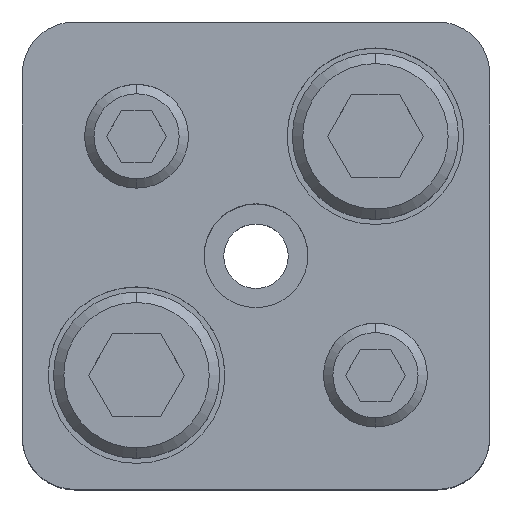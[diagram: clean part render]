
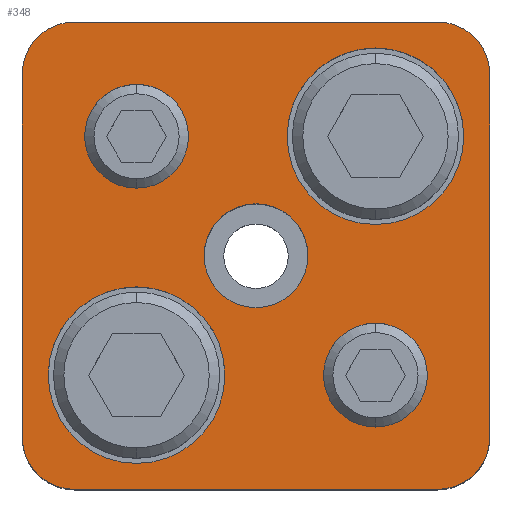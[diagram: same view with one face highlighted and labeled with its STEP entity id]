
A CAD part, top view. The second image highlights one B-rep face of the part: STEP entity #348.
In plain terms, the highlighted planar face has unit normal (0, 0, 1).
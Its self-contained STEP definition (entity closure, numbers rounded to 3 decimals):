
#173=PLANE('',#2995);
#248=FACE_BOUND('',#745,.T.);
#249=FACE_BOUND('',#746,.T.);
#250=FACE_BOUND('',#747,.T.);
#251=FACE_BOUND('',#748,.T.);
#252=FACE_BOUND('',#749,.T.);
#253=FACE_BOUND('',#750,.T.);
#348=ADVANCED_FACE('',(#248,#249,#250,#251,#252,#253),#173,.T.);
#745=EDGE_LOOP('',(#1597,#1598,#1599,#1600,#1601,#1602,#1603,#1604));
#746=EDGE_LOOP('',(#1605,#1606));
#747=EDGE_LOOP('',(#1607,#1608));
#748=EDGE_LOOP('',(#1609,#1610));
#749=EDGE_LOOP('',(#1611,#1612));
#750=EDGE_LOOP('',(#1613,#1614));
#934=LINE('',#4430,#1142);
#935=LINE('',#4434,#1143);
#936=LINE('',#4438,#1144);
#937=LINE('',#4442,#1145);
#1142=VECTOR('',#3559,1.);
#1143=VECTOR('',#3562,1.);
#1144=VECTOR('',#3565,1.);
#1145=VECTOR('',#3568,1.);
#1597=ORIENTED_EDGE('',*,*,#2454,.T.);
#1598=ORIENTED_EDGE('',*,*,#2455,.T.);
#1599=ORIENTED_EDGE('',*,*,#2456,.T.);
#1600=ORIENTED_EDGE('',*,*,#2457,.T.);
#1601=ORIENTED_EDGE('',*,*,#2458,.T.);
#1602=ORIENTED_EDGE('',*,*,#2459,.T.);
#1603=ORIENTED_EDGE('',*,*,#2460,.T.);
#1604=ORIENTED_EDGE('',*,*,#2461,.T.);
#1605=ORIENTED_EDGE('',*,*,#2462,.F.);
#1606=ORIENTED_EDGE('',*,*,#2463,.F.);
#1607=ORIENTED_EDGE('',*,*,#2464,.F.);
#1608=ORIENTED_EDGE('',*,*,#2465,.F.);
#1609=ORIENTED_EDGE('',*,*,#2440,.F.);
#1610=ORIENTED_EDGE('',*,*,#2436,.F.);
#1611=ORIENTED_EDGE('',*,*,#2434,.F.);
#1612=ORIENTED_EDGE('',*,*,#2430,.F.);
#1613=ORIENTED_EDGE('',*,*,#2466,.T.);
#1614=ORIENTED_EDGE('',*,*,#2467,.T.);
#2135=VERTEX_POINT('',#4378);
#2136=VERTEX_POINT('',#4379);
#2139=VERTEX_POINT('',#4391);
#2140=VERTEX_POINT('',#4392);
#2151=VERTEX_POINT('',#4428);
#2152=VERTEX_POINT('',#4429);
#2153=VERTEX_POINT('',#4431);
#2154=VERTEX_POINT('',#4433);
#2155=VERTEX_POINT('',#4435);
#2156=VERTEX_POINT('',#4437);
#2157=VERTEX_POINT('',#4439);
#2158=VERTEX_POINT('',#4441);
#2159=VERTEX_POINT('',#4444);
#2160=VERTEX_POINT('',#4445);
#2161=VERTEX_POINT('',#4448);
#2162=VERTEX_POINT('',#4449);
#2163=VERTEX_POINT('',#4452);
#2164=VERTEX_POINT('',#4453);
#2430=EDGE_CURVE('',#2135,#2136,#2735,.T.);
#2434=EDGE_CURVE('',#2136,#2135,#2737,.T.);
#2436=EDGE_CURVE('',#2139,#2140,#2739,.T.);
#2440=EDGE_CURVE('',#2140,#2139,#2741,.T.);
#2454=EDGE_CURVE('',#2151,#2152,#2751,.T.);
#2455=EDGE_CURVE('',#2152,#2153,#934,.T.);
#2456=EDGE_CURVE('',#2153,#2154,#2752,.T.);
#2457=EDGE_CURVE('',#2154,#2155,#935,.T.);
#2458=EDGE_CURVE('',#2155,#2156,#2753,.T.);
#2459=EDGE_CURVE('',#2156,#2157,#936,.T.);
#2460=EDGE_CURVE('',#2157,#2158,#2754,.T.);
#2461=EDGE_CURVE('',#2158,#2151,#937,.T.);
#2462=EDGE_CURVE('',#2159,#2160,#2755,.T.);
#2463=EDGE_CURVE('',#2160,#2159,#2756,.T.);
#2464=EDGE_CURVE('',#2161,#2162,#2757,.T.);
#2465=EDGE_CURVE('',#2162,#2161,#2758,.T.);
#2466=EDGE_CURVE('',#2163,#2164,#2759,.T.);
#2467=EDGE_CURVE('',#2164,#2163,#2760,.T.);
#2735=CIRCLE('',#2959,5.);
#2737=CIRCLE('',#2962,5.);
#2739=CIRCLE('',#2966,5.);
#2741=CIRCLE('',#2969,5.);
#2751=CIRCLE('',#2985,5.);
#2752=CIRCLE('',#2986,5.);
#2753=CIRCLE('',#2987,5.);
#2754=CIRCLE('',#2988,5.);
#2755=CIRCLE('',#2989,8.5);
#2756=CIRCLE('',#2990,8.5);
#2757=CIRCLE('',#2991,8.5);
#2758=CIRCLE('',#2992,8.5);
#2759=CIRCLE('',#2993,5.);
#2760=CIRCLE('',#2994,5.);
#2959=AXIS2_PLACEMENT_3D('',#4377,#3497,#3498);
#2962=AXIS2_PLACEMENT_3D('',#4386,#3505,#3506);
#2966=AXIS2_PLACEMENT_3D('',#4390,#3513,#3514);
#2969=AXIS2_PLACEMENT_3D('',#4399,#3521,#3522);
#2985=AXIS2_PLACEMENT_3D('',#4427,#3557,#3558);
#2986=AXIS2_PLACEMENT_3D('',#4432,#3560,#3561);
#2987=AXIS2_PLACEMENT_3D('',#4436,#3563,#3564);
#2988=AXIS2_PLACEMENT_3D('',#4440,#3566,#3567);
#2989=AXIS2_PLACEMENT_3D('',#4443,#3569,#3570);
#2990=AXIS2_PLACEMENT_3D('',#4446,#3571,#3572);
#2991=AXIS2_PLACEMENT_3D('',#4447,#3573,#3574);
#2992=AXIS2_PLACEMENT_3D('',#4450,#3575,#3576);
#2993=AXIS2_PLACEMENT_3D('',#4451,#3577,#3578);
#2994=AXIS2_PLACEMENT_3D('',#4454,#3579,#3580);
#2995=AXIS2_PLACEMENT_3D('',#4455,#3581,#3582);
#3497=DIRECTION('',(0.,0.,1.));
#3498=DIRECTION('',(-1.,0.,0.));
#3505=DIRECTION('',(0.,0.,1.));
#3506=DIRECTION('',(1.,0.,0.));
#3513=DIRECTION('',(0.,0.,1.));
#3514=DIRECTION('',(-1.,0.,0.));
#3521=DIRECTION('',(0.,0.,1.));
#3522=DIRECTION('',(1.,0.,0.));
#3557=DIRECTION('',(0.,0.,1.));
#3558=DIRECTION('',(-0.707,0.707,0.));
#3559=DIRECTION('',(0.,1.,0.));
#3560=DIRECTION('',(0.,0.,1.));
#3561=DIRECTION('',(-0.707,-0.707,0.));
#3562=DIRECTION('',(-1.,0.,0.));
#3563=DIRECTION('',(0.,0.,1.));
#3564=DIRECTION('',(0.707,-0.707,0.));
#3565=DIRECTION('',(0.,-1.,0.));
#3566=DIRECTION('',(0.,0.,1.));
#3567=DIRECTION('',(0.707,0.707,0.));
#3568=DIRECTION('',(1.,0.,0.));
#3569=DIRECTION('',(0.,0.,1.));
#3570=DIRECTION('',(1.,0.,0.));
#3571=DIRECTION('',(0.,0.,1.));
#3572=DIRECTION('',(-1.,0.,0.));
#3573=DIRECTION('',(0.,0.,1.));
#3574=DIRECTION('',(1.,0.,0.));
#3575=DIRECTION('',(0.,0.,1.));
#3576=DIRECTION('',(-1.,0.,0.));
#3577=DIRECTION('',(0.,0.,-1.));
#3578=DIRECTION('',(-1.,0.,0.));
#3579=DIRECTION('',(0.,0.,-1.));
#3580=DIRECTION('',(1.,0.,0.));
#3581=DIRECTION('',(0.,0.,1.));
#3582=DIRECTION('',(-1.,0.,0.));
#4377=CARTESIAN_POINT('',(11.5,-11.5,35.));
#4378=CARTESIAN_POINT('',(11.5,-16.5,35.));
#4379=CARTESIAN_POINT('',(11.5,-6.5,35.));
#4386=CARTESIAN_POINT('',(11.5,-11.5,35.));
#4390=CARTESIAN_POINT('',(-11.5,11.5,35.));
#4391=CARTESIAN_POINT('',(-11.5,6.5,35.));
#4392=CARTESIAN_POINT('',(-11.5,16.5,35.));
#4399=CARTESIAN_POINT('',(-11.5,11.5,35.));
#4427=CARTESIAN_POINT('',(17.5,-17.5,35.));
#4428=CARTESIAN_POINT('',(17.5,-22.5,35.));
#4429=CARTESIAN_POINT('',(22.5,-17.5,35.));
#4430=CARTESIAN_POINT('',(22.5,17.5,35.));
#4431=CARTESIAN_POINT('',(22.5,17.5,35.));
#4432=CARTESIAN_POINT('',(17.5,17.5,35.));
#4433=CARTESIAN_POINT('',(17.5,22.5,35.));
#4434=CARTESIAN_POINT('',(-17.5,22.5,35.));
#4435=CARTESIAN_POINT('',(-17.5,22.5,35.));
#4436=CARTESIAN_POINT('',(-17.5,17.5,35.));
#4437=CARTESIAN_POINT('',(-22.5,17.5,35.));
#4438=CARTESIAN_POINT('',(-22.5,17.5,35.));
#4439=CARTESIAN_POINT('',(-22.5,-17.5,35.));
#4440=CARTESIAN_POINT('',(-17.5,-17.5,35.));
#4441=CARTESIAN_POINT('',(-17.5,-22.5,35.));
#4442=CARTESIAN_POINT('',(-17.5,-22.5,35.));
#4443=CARTESIAN_POINT('',(11.5,11.5,35.));
#4444=CARTESIAN_POINT('',(11.5,20.,35.));
#4445=CARTESIAN_POINT('',(11.5,3.,35.));
#4446=CARTESIAN_POINT('',(11.5,11.5,35.));
#4447=CARTESIAN_POINT('',(-11.5,-11.5,35.));
#4448=CARTESIAN_POINT('',(-11.5,-3.,35.));
#4449=CARTESIAN_POINT('',(-11.5,-20.,35.));
#4450=CARTESIAN_POINT('',(-11.5,-11.5,35.));
#4451=CARTESIAN_POINT('',(0.,0.,35.));
#4452=CARTESIAN_POINT('',(0.,5.,35.));
#4453=CARTESIAN_POINT('',(0.,-5.,35.));
#4454=CARTESIAN_POINT('',(0.,0.,35.));
#4455=CARTESIAN_POINT('',(17.5,-22.5,35.));
